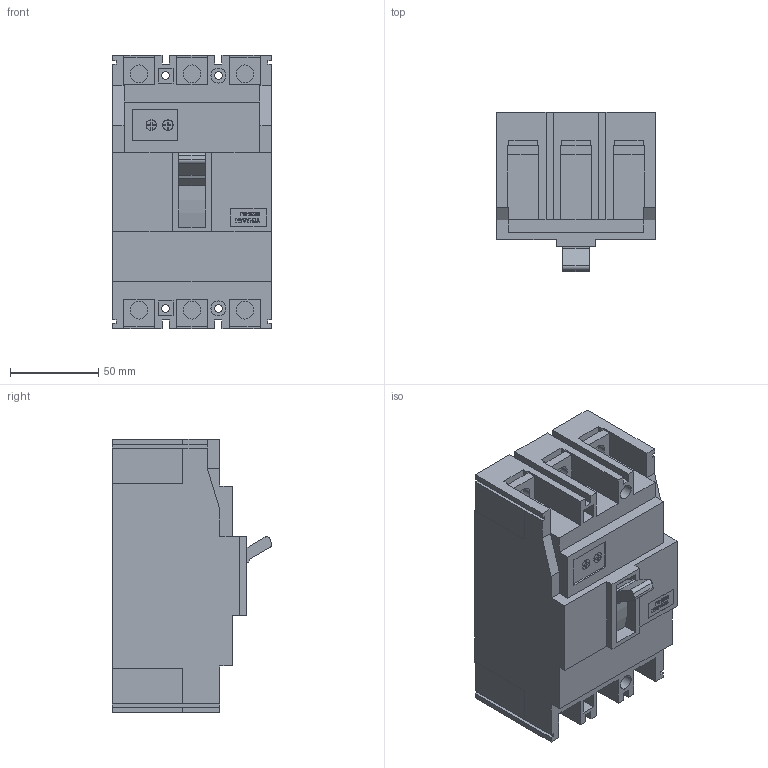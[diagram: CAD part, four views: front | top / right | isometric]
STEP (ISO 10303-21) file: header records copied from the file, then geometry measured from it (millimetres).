
FILE_DESCRIPTION((''),'2;1');
FILE_NAME('S125GJ3100','2012-09-19T',('cmahecha'),(''),'PRO/ENGINEER BY PARAMETRIC TECHNOLOGY CORPORATION, 2010280','PRO/ENGINEER BY PARAMETRIC TECHNOLOGY CORPORATION, 2010280','');
FILE_SCHEMA(('CONFIG_CONTROL_DESIGN'));
Length unit declared in the file: millimetre
Products named in the file (1): S125GJ3100
Bounding box: 90 x 90.39 x 155 mm (x, y, z)
Volume: 843550.1 mm3; surface area: 81615.2 mm2
Topology: 1 solids, 1 shells, 604 faces, 1691 edges, 1122 vertices
Faces by surface type: plane 568, cylinder 36
Entity records: 19137 total; most frequent: CARTESIAN_POINT 3417, ORIENTED_EDGE 3382, DIRECTION 2971, EDGE_CURVE 1691, VECTOR 1619, LINE 1619, VERTEX_POINT 1122, AXIS2_PLACEMENT_3D 676
